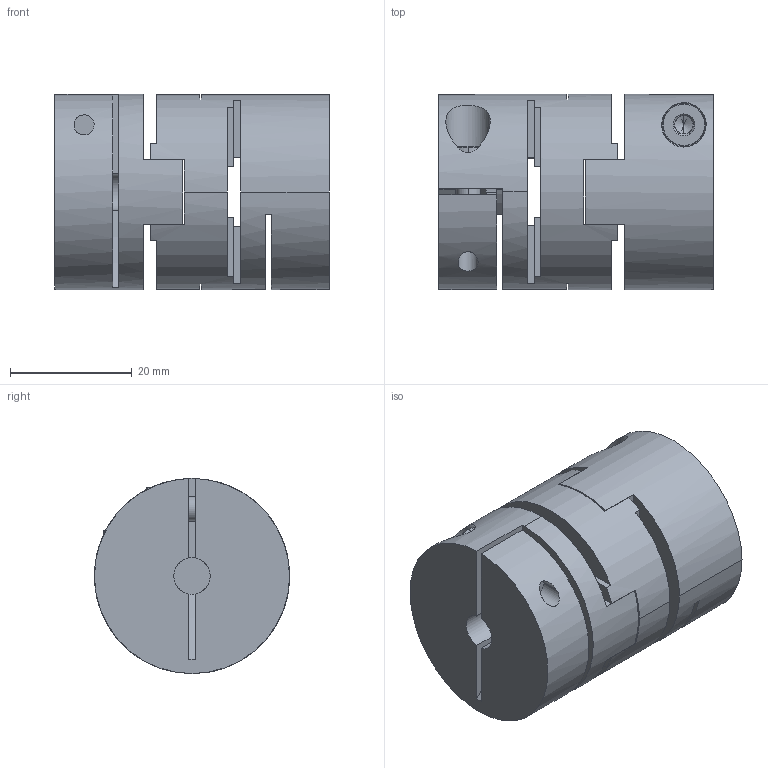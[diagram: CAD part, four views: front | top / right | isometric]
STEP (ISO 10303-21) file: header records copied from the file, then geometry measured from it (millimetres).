
FILE_DESCRIPTION (( 'STEP AP203' ), '1' );
FILE_NAME ('KBO2-32.STEP', '2024-01-10T12:06:35', ( '' ), ( '' ), 'SwSTEP 2.0', 'SolidWorks 2022', '' );
FILE_SCHEMA (( 'CONFIG_CONTROL_DESIGN' ));
Length unit declared in the file: millimetre
Products named in the file (4): KBO2-32; OZS 32_011.00000740.500; ONK 32_011.00001058.100; ISO 4762 - M4 x 12
Assembly tree (5 placements, depth 2):
  KBO2-32
    OZS 32_011.00000740.500
    ONK 32_011.00001058.100  x2
    ISO 4762 - M4 x 12  x2
Bounding box: 45 x 32 x 32 mm (x, y, z)
Volume: 29172.9 mm3; surface area: 14241.3 mm2
Topology: 5 solids, 5 shells, 163 faces, 421 edges, 268 vertices
Faces by surface type: plane 94, cylinder 45, torus 12, cone 12
Entity records: 3689 total; most frequent: CARTESIAN_POINT 680, DIRECTION 571, ORIENTED_EDGE 522, EDGE_CURVE 261, AXIS2_PLACEMENT_3D 216, VERTEX_POINT 169, LINE 139, VECTOR 139
